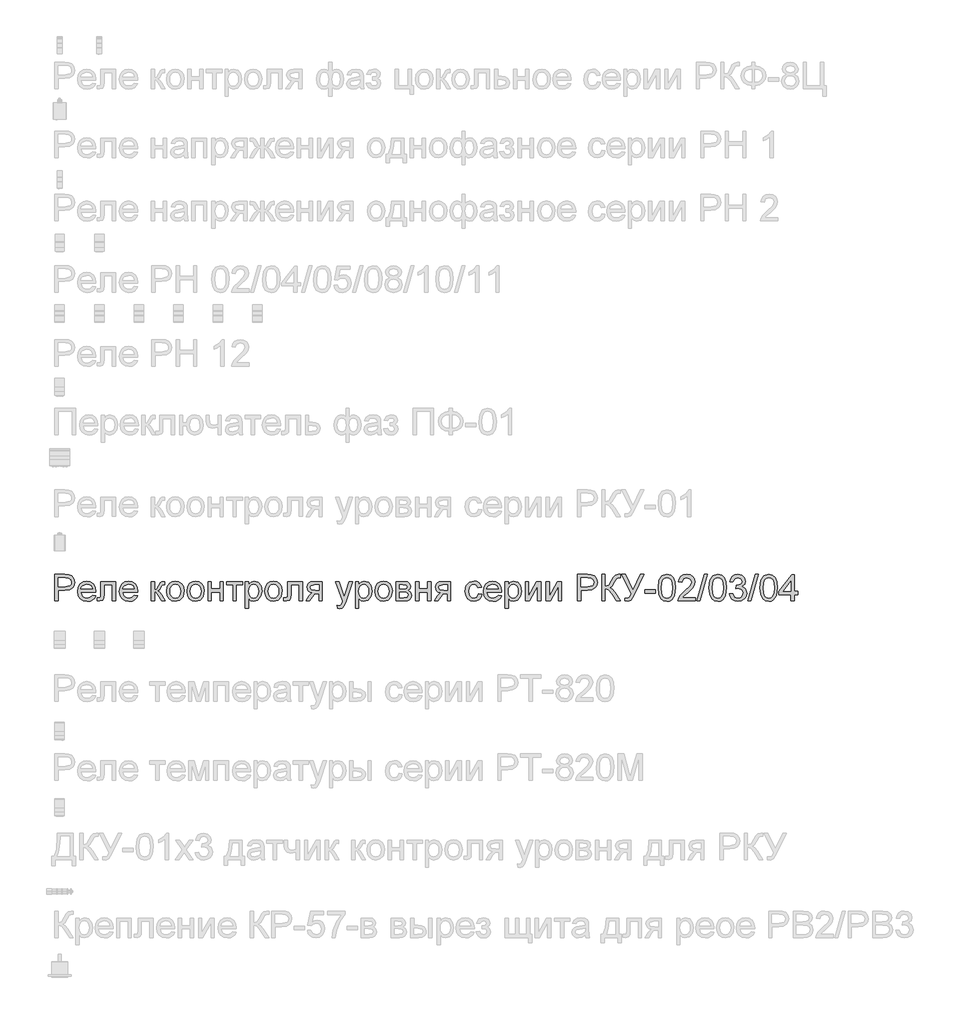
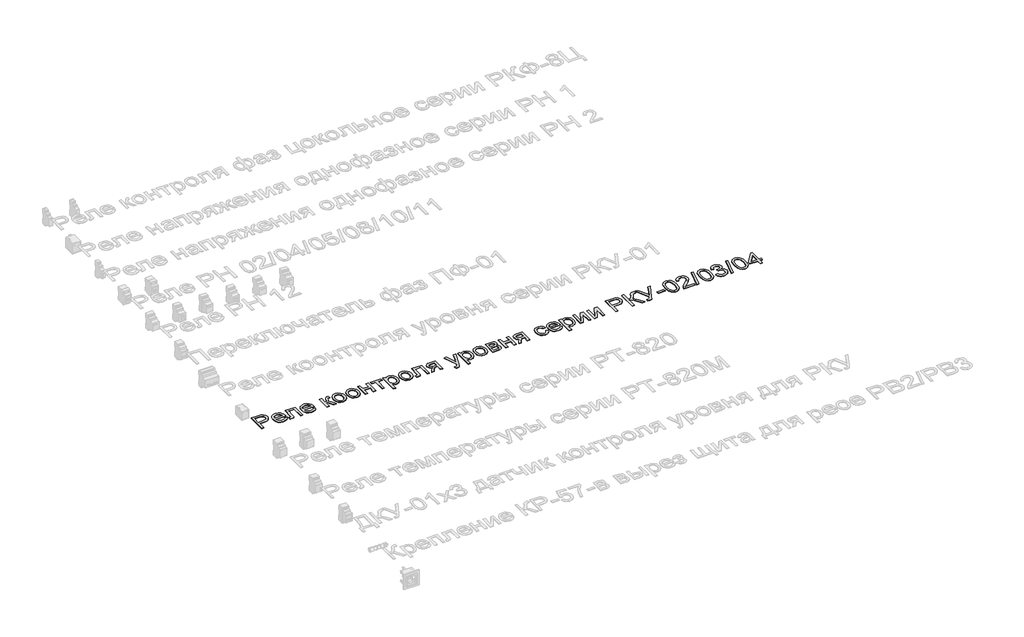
# One storey, part 5 of 34: 1 proxy.
"""IFC4 building model written with IfcOpenShell, lengths in millimetres."""

from ifc_helpers import new_model, si_unit, frame, origin, place, context, project, spatial, polyline, outline, extrude, element, save

model = new_model("IFC4")

# Units and contexts
model_context = context("Model", 3, world=origin())
ifc_project = project(units=[si_unit("LENGTHUNIT", "METRE", prefix="MILLI")], contexts=[model_context])

# Site, building, storey
site = spatial("IfcSite", under=ifc_project)
building = spatial("IfcBuilding", under=site)
storey = spatial("IfcBuildingStorey", under=building, Name="Этаж 01", Elevation=0.0)

# Proxy
placement = place(None, origin())
element("IfcBuildingElementProxy", 1, Name="Надпись на модели 1", ObjectType="Надпись на модели 1", at=placement, inside=storey, context=model_context, shape_type="SweptSolid", body=[
    extrude(outline(polyline([(-19039.0125911, 8766.235284), (-19039.0125911, 8866.6915941), (-19001.7829332, 8866.6915941), (-18986.7733478, 8865.735101), (-18974.5719283, 8861.0384742), (-18966.6624654, 8851.3263895), (-18963.6703585, 8837.6289165), (-18965.6906438, 8825.7892476), (-18971.7514996, 8815.9238788), (-18983.0853308, 8809.2652147), (-19000.9245418, 8807.04566), (-19026.4555523, 8807.04566), (-19026.4555523, 8766.235284), (-19039.0125911, 8766.235284)]), holes=[polyline([(-19026.4555523, 8819.6026988), (-19000.1887779, 8819.6026988), (-18981.6965762, 8824.2134864), (-18977.594692, 8829.7623732), (-18976.2273972, 8837.1874581), (-18979.4524961, 8847.5862559), (-18987.9260447, 8853.2761641), (-19000.4830834, 8854.1345554), (-19026.4555523, 8854.1345554), (-19026.4555523, 8819.6026988)])]), frame((0.0, 0.0, 40.0), z_axis=(0.0, 0.0, 1.0), x_axis=(1.0, 0.0, 0.0)), (0.0, 0.0, 1.0), 2.0),
    extrude(outline(polyline([(-18896.3234279, 8788.2101018), (-18884.0116438, 8786.640472), (-18888.4476875, 8777.3637143), (-18895.5263502, 8770.4291387), (-18905.0882164, 8766.1065253), (-18916.9738705, 8764.6656541), (-18931.7075445, 8767.1519233), (-18943.0444413, 8774.6107308), (-18950.2733225, 8786.5576985), (-18952.6829495, 8802.5084487), (-18950.248797, 8818.9956935), (-18942.9463394, 8831.3258717), (-18931.7627268, 8839.0146054), (-18917.6851091, 8841.5775166), (-18904.0458841, 8839.0207367), (-18893.14738, 8831.3503971), (-18886.0012722, 8819.0447444), (-18883.6192363, 8802.5820251), (-18883.6928127, 8799.1975108), (-18940.1259108, 8799.1975108), (-18937.9523413, 8789.7981258), (-18932.9031609, 8782.8880756), (-18925.6160317, 8778.6390386), (-18916.7286159, 8777.2226929), (-18904.4168318, 8779.8469178), (-18896.3234279, 8788.2101018)]), holes=[polyline([(-18940.1259108, 8811.7545495), (-18896.1762751, 8811.7545495), (-18901.2039957, 8823.1343659), (-18908.5248474, 8827.5489499), (-18917.73416, 8829.0204778), (-18933.1974665, 8824.323851), (-18938.0627059, 8818.8332123), (-18940.1259108, 8811.7545495)])]), frame((0.0, 0.0, 40.0), z_axis=(0.0, 0.0, 1.0), x_axis=(1.0, 0.0, 0.0)), (0.0, 0.0, 1.0), 2.0),
    extrude(outline(polyline([(-18864.7836782, 8840.0078868), (-18808.2770037, 8840.0078868), (-18808.2770037, 8766.3088604), (-18820.8340425, 8766.3088604), (-18820.8340425, 8827.450848), (-18852.2266394, 8827.450848), (-18852.2266394, 8792.2568038), (-18853.072768, 8776.0209451), (-18857.7203439, 8769.1660772), (-18868.7077528, 8766.235284), (-18878.9103468, 8766.8729461), (-18878.9103468, 8778.7923228), (-18873.294015, 8778.7923228), (-18867.6163695, 8779.564875), (-18865.3477639, 8782.0174216), (-18864.7836782, 8792.9680423), (-18864.7836782, 8840.0078868)])), frame((0.0, 0.0, 40.0), z_axis=(0.0, 0.0, 1.0), x_axis=(1.0, 0.0, 0.0)), (0.0, 0.0, 1.0), 2.0),
    extrude(outline(polyline([(-18737.7908134, 8788.2101018), (-18725.4790293, 8786.640472), (-18729.915073, 8777.3637143), (-18736.9937358, 8770.4291387), (-18746.555602, 8766.1065253), (-18758.4412561, 8764.6656541), (-18773.17493, 8767.1519233), (-18784.5118268, 8774.6107308), (-18791.740708, 8786.5576985), (-18794.1503351, 8802.5084487), (-18791.7161826, 8818.9956935), (-18784.4137249, 8831.3258717), (-18773.2301123, 8839.0146054), (-18759.1524946, 8841.5775166), (-18745.5132696, 8839.0207367), (-18734.6147655, 8831.3503971), (-18727.4686578, 8819.0447444), (-18725.0866219, 8802.5820251), (-18725.1601983, 8799.1975108), (-18781.5932963, 8799.1975108), (-18779.4197269, 8789.7981258), (-18774.3705465, 8782.8880756), (-18767.0834173, 8778.6390386), (-18758.1960014, 8777.2226929), (-18745.8842173, 8779.8469178), (-18737.7908134, 8788.2101018)]), holes=[polyline([(-18781.5932963, 8811.7545495), (-18737.6436606, 8811.7545495), (-18742.6713812, 8823.1343659), (-18749.9922329, 8827.5489499), (-18759.2015455, 8829.0204778), (-18774.6648521, 8824.323851), (-18779.5300915, 8818.8332123), (-18781.5932963, 8811.7545495)])]), frame((0.0, 0.0, 40.0), z_axis=(0.0, 0.0, 1.0), x_axis=(1.0, 0.0, 0.0)), (0.0, 0.0, 1.0), 2.0),
    extrude(outline(polyline([(-18673.2888369, 8840.0078868), (-18660.7317982, 8840.0078868), (-18660.7317982, 8808.6152898), (-18652.3195632, 8810.8716327), (-18645.4279072, 8824.0172827), (-18639.7012108, 8835.3603109), (-18634.6489647, 8839.0513936), (-18625.4641776, 8840.0078868), (-18623.0606819, 8840.0078868), (-18623.0606819, 8827.3772716), (-18626.4451962, 8827.450848), (-18632.5765628, 8826.1264728), (-18636.8930449, 8817.8613906), (-18641.9575537, 8808.9218582), (-18649.0576762, 8804.5440624), (-18641.1359506, 8799.6573633), (-18633.3613777, 8789.3627988), (-18619.9214222, 8766.235284), (-18634.1952436, 8766.235284), (-18647.365419, 8788.8722894), (-18653.9872949, 8798.449484), (-18660.7317982, 8800.7671406), (-18660.7317982, 8766.235284), (-18673.2888369, 8766.235284), (-18673.2888369, 8840.0078868)])), frame((0.0, 0.0, 40.0), z_axis=(0.0, 0.0, 1.0), x_axis=(1.0, 0.0, 0.0)), (0.0, 0.0, 1.0), 2.0),
    extrude(outline(polyline([(-18615.2125326, 8803.1215854), (-18612.4963372, 8820.9086798), (-18604.347751, 8833.4105363), (-18594.2800471, 8839.5357715), (-18582.2257804, 8841.5775166), (-18569.0341452, 8839.0912475), (-18558.4973917, 8831.63244), (-18551.5904073, 8819.7897054), (-18549.2880791, 8804.151655), (-18553.3593065, 8781.8089551), (-18565.2173695, 8769.1660772), (-18582.2257804, 8764.6656541), (-18595.5768311, 8767.1427262), (-18606.1013219, 8774.5739426), (-18612.9347299, 8786.6649975), (-18615.2125326, 8803.1215854)]), holes=[polyline([(-18602.6554939, 8803.1461108), (-18601.20236, 8791.7816229), (-18596.8429583, 8783.6851533), (-18590.2823961, 8778.838308), (-18582.2257804, 8777.2226929), (-18574.2059529, 8778.8475051), (-18567.6576534, 8783.7219415), (-18563.2982517, 8791.92571), (-18561.8451179, 8803.5385183), (-18563.3074488, 8814.5719125), (-18567.6944416, 8822.5580175), (-18574.2519382, 8827.4048627), (-18582.2257804, 8829.0204778), (-18590.2823961, 8827.4109941), (-18596.8429583, 8822.5825429), (-18601.20236, 8814.5044674), (-18602.6554939, 8803.1461108)])]), frame((0.0, 0.0, 40.0), z_axis=(0.0, 0.0, 1.0), x_axis=(1.0, 0.0, 0.0)), (0.0, 0.0, 1.0), 2.0),
    extrude(outline(polyline([(-18538.3006702, 8803.1215854), (-18535.5844748, 8820.9086798), (-18527.4358886, 8833.4105363), (-18517.3681846, 8839.5357715), (-18505.3139179, 8841.5775166), (-18492.1222827, 8839.0912475), (-18481.5855293, 8831.63244), (-18474.6785448, 8819.7897054), (-18472.3762166, 8804.151655), (-18476.4474441, 8781.8089551), (-18488.305507, 8769.1660772), (-18505.3139179, 8764.6656541), (-18518.6649687, 8767.1427262), (-18529.1894594, 8774.5739426), (-18536.0228675, 8786.6649975), (-18538.3006702, 8803.1215854)]), holes=[polyline([(-18525.7436314, 8803.1461108), (-18524.2904975, 8791.7816229), (-18519.9310959, 8783.6851533), (-18513.3705336, 8778.838308), (-18505.3139179, 8777.2226929), (-18497.2940904, 8778.8475051), (-18490.7457909, 8783.7219415), (-18486.3863893, 8791.92571), (-18484.9332554, 8803.5385183), (-18486.3955863, 8814.5719125), (-18490.7825791, 8822.5580175), (-18497.3400757, 8827.4048627), (-18505.3139179, 8829.0204778), (-18513.3705336, 8827.4109941), (-18519.9310959, 8822.5825429), (-18524.2904975, 8814.5044674), (-18525.7436314, 8803.1461108)])]), frame((0.0, 0.0, 40.0), z_axis=(0.0, 0.0, 1.0), x_axis=(1.0, 0.0, 0.0)), (0.0, 0.0, 1.0), 2.0),
    extrude(outline(polyline([(-18458.249548, 8840.0078868), (-18445.6925093, 8840.0078868), (-18445.6925093, 8811.7545495), (-18412.7302825, 8811.7545495), (-18412.7302825, 8840.0078868), (-18400.1732437, 8840.0078868), (-18400.1732437, 8766.235284), (-18412.7302825, 8766.235284), (-18412.7302825, 8799.1975108), (-18445.6925093, 8799.1975108), (-18445.6925093, 8766.235284), (-18458.249548, 8766.235284), (-18458.249548, 8840.0078868)])), frame((0.0, 0.0, 40.0), z_axis=(0.0, 0.0, 1.0), x_axis=(1.0, 0.0, 0.0)), (0.0, 0.0, 1.0), 2.0),
    extrude(outline(polyline([(-18387.616205, 8840.0078868), (-18327.9702708, 8840.0078868), (-18327.9702708, 8827.450848), (-18351.5147185, 8827.450848), (-18351.5147185, 8766.235284), (-18364.0717573, 8766.235284), (-18364.0717573, 8827.450848), (-18387.616205, 8827.450848), (-18387.616205, 8840.0078868)])), frame((0.0, 0.0, 40.0), z_axis=(0.0, 0.0, 1.0), x_axis=(1.0, 0.0, 0.0)), (0.0, 0.0, 1.0), 2.0),
    extrude(outline(polyline([(-18316.9828619, 8737.9819468), (-18316.9828619, 8840.0078868), (-18304.4258231, 8840.0078868), (-18304.4258231, 8827.6961027), (-18295.743808, 8838.1071631), (-18284.0206351, 8841.5775166), (-18268.1036075, 8836.7214743), (-18257.7048097, 8823.036264), (-18254.197668, 8803.6856711), (-18258.1585308, 8783.3417968), (-18269.6609746, 8769.4849083), (-18285.541214, 8764.6656541), (-18296.4673093, 8767.890753), (-18304.4258231, 8776.0454705), (-18304.4258231, 8737.9819468), (-18316.9828619, 8737.9819468)]), holes=[polyline([(-18304.4258231, 8802.5329742), (-18303.0677254, 8791.2757851), (-18298.9934323, 8783.4031104), (-18292.9816274, 8778.7677973), (-18285.8109942, 8777.2226929), (-18278.523865, 8778.8229796), (-18272.3587759, 8783.6238396), (-18268.1557241, 8791.7846886), (-18266.7547068, 8803.4649419), (-18268.1220016, 8814.6608173), (-18272.2238858, 8822.6438566), (-18278.2264937, 8827.4263225), (-18285.2959594, 8829.0204778), (-18292.3930162, 8827.325155), (-18298.6255503, 8822.2391864), (-18302.9757549, 8813.9219876), (-18304.4258231, 8802.5329742)])]), frame((0.0, 0.0, 40.0), z_axis=(0.0, 0.0, 1.0), x_axis=(1.0, 0.0, 0.0)), (0.0, 0.0, 1.0), 2.0),
    extrude(outline(polyline([(-18243.2102591, 8803.1215854), (-18240.4940637, 8820.9086798), (-18232.3454775, 8833.4105363), (-18222.2777736, 8839.5357715), (-18210.2235069, 8841.5775166), (-18197.0318717, 8839.0912475), (-18186.4951182, 8831.63244), (-18179.5881337, 8819.7897054), (-18177.2858056, 8804.151655), (-18181.357033, 8781.8089551), (-18193.215096, 8769.1660772), (-18210.2235069, 8764.6656541), (-18223.5745576, 8767.1427262), (-18234.0990484, 8774.5739426), (-18240.9324564, 8786.6649975), (-18243.2102591, 8803.1215854)]), holes=[polyline([(-18230.6532203, 8803.1461108), (-18229.2000865, 8791.7816229), (-18224.8406848, 8783.6851533), (-18218.2801226, 8778.838308), (-18210.2235069, 8777.2226929), (-18202.2036794, 8778.8475051), (-18195.6553799, 8783.7219415), (-18191.2959782, 8791.92571), (-18189.8428443, 8803.5385183), (-18191.3051753, 8814.5719125), (-18195.6921681, 8822.5580175), (-18202.2496646, 8827.4048627), (-18210.2235069, 8829.0204778), (-18218.2801226, 8827.4109941), (-18224.8406848, 8822.5825429), (-18229.2000865, 8814.5044674), (-18230.6532203, 8803.1461108)])]), frame((0.0, 0.0, 40.0), z_axis=(0.0, 0.0, 1.0), x_axis=(1.0, 0.0, 0.0)), (0.0, 0.0, 1.0), 2.0),
    extrude(outline(polyline([(-18156.8806176, 8840.0078868), (-18100.3739431, 8840.0078868), (-18100.3739431, 8766.3088604), (-18112.9309819, 8766.3088604), (-18112.9309819, 8827.450848), (-18144.3235788, 8827.450848), (-18144.3235788, 8792.2568038), (-18145.1697074, 8776.0209451), (-18149.8172833, 8769.1660772), (-18160.8046922, 8766.235284), (-18171.0072862, 8766.8729461), (-18171.0072862, 8778.7923228), (-18165.3909544, 8778.7923228), (-18159.7133089, 8779.564875), (-18157.4447033, 8782.0174216), (-18156.8806176, 8792.9680423), (-18156.8806176, 8840.0078868)])), frame((0.0, 0.0, 40.0), z_axis=(0.0, 0.0, 1.0), x_axis=(1.0, 0.0, 0.0)), (0.0, 0.0, 1.0), 2.0),
    extrude(outline(polyline([(-18025.0317105, 8840.0078868), (-18025.0317105, 8766.235284), (-18037.5887493, 8766.235284), (-18037.5887493, 8794.4886212), (-18044.4313544, 8794.4886212), (-18053.7510316, 8792.8944659), (-18062.5066231, 8782.1768371), (-18072.5130133, 8766.235284), (-18087.0320894, 8766.235284), (-18074.4259997, 8786.3952173), (-18063.7328964, 8796.843066), (-18072.3168096, 8799.4734223), (-18078.3500743, 8804.470486), (-18083.1080148, 8818.6952565), (-18081.4832027, 8827.2914325), (-18076.6087662, 8834.0972494), (-18068.6563838, 8838.5302274), (-18057.7977335, 8840.0078868), (-18025.0317105, 8840.0078868)]), holes=[polyline([(-18037.5887493, 8827.450848), (-18054.1434391, 8827.450848), (-18067.5466064, 8824.5445802), (-18070.550976, 8817.7387633), (-18066.1241294, 8809.6330967), (-18050.4400936, 8807.04566), (-18037.5887493, 8807.04566), (-18037.5887493, 8827.450848)])]), frame((0.0, 0.0, 40.0), z_axis=(0.0, 0.0, 1.0), x_axis=(1.0, 0.0, 0.0)), (0.0, 0.0, 1.0), 2.0),
    extrude(outline(polyline([(-17966.9554062, 8737.9819468), (-17968.525036, 8750.0730017), (-17962.1484148, 8748.9693557), (-17956.1887265, 8750.3550445), (-17952.534432, 8754.2178055), (-17949.1008667, 8763.4639063), (-17948.119848, 8766.5050641), (-17974.8035554, 8840.0078868), (-17961.5598036, 8840.0078868), (-17947.4086095, 8799.050358), (-17942.4789908, 8782.6673464), (-17937.5493721, 8797.1373716), (-17923.0057705, 8840.0078868), (-17909.8601205, 8840.0078868), (-17935.5382838, 8764.4694504), (-17942.2092107, 8748.0864389), (-17949.4932742, 8739.2327455), (-17959.2789352, 8736.4123169), (-17966.9554062, 8737.9819468)])), frame((0.0, 0.0, 40.0), z_axis=(0.0, 0.0, 1.0), x_axis=(1.0, 0.0, 0.0)), (0.0, 0.0, 1.0), 2.0),
    extrude(outline(polyline([(-17899.4613228, 8737.9819468), (-17899.4613228, 8840.0078868), (-17886.904284, 8840.0078868), (-17886.904284, 8827.6961027), (-17878.222269, 8838.1071631), (-17866.499096, 8841.5775166), (-17850.5820684, 8836.7214743), (-17840.1832707, 8823.036264), (-17836.676129, 8803.6856711), (-17840.6369918, 8783.3417968), (-17852.1394355, 8769.4849083), (-17868.019675, 8764.6656541), (-17878.9457702, 8767.890753), (-17886.904284, 8776.0454705), (-17886.904284, 8737.9819468), (-17899.4613228, 8737.9819468)]), holes=[polyline([(-17886.904284, 8802.5329742), (-17885.5461864, 8791.2757851), (-17881.4718933, 8783.4031104), (-17875.4600883, 8778.7677973), (-17868.2894551, 8777.2226929), (-17861.0023259, 8778.8229796), (-17854.8372368, 8783.6238396), (-17850.634185, 8791.7846886), (-17849.2331677, 8803.4649419), (-17850.6004625, 8814.6608173), (-17854.7023467, 8822.6438566), (-17860.7049546, 8827.4263225), (-17867.7744203, 8829.0204778), (-17874.8714771, 8827.325155), (-17881.1040113, 8822.2391864), (-17885.4542159, 8813.9219876), (-17886.904284, 8802.5329742)])]), frame((0.0, 0.0, 40.0), z_axis=(0.0, 0.0, 1.0), x_axis=(1.0, 0.0, 0.0)), (0.0, 0.0, 1.0), 2.0),
    extrude(outline(polyline([(-17825.6887201, 8803.1215854), (-17822.9725247, 8820.9086798), (-17814.8239385, 8833.4105363), (-17804.7562345, 8839.5357715), (-17792.7019678, 8841.5775166), (-17779.5103326, 8839.0912475), (-17768.9735791, 8831.63244), (-17762.0665947, 8819.7897054), (-17759.7642665, 8804.151655), (-17763.8354939, 8781.8089551), (-17775.6935569, 8769.1660772), (-17792.7019678, 8764.6656541), (-17806.0530186, 8767.1427262), (-17816.5775093, 8774.5739426), (-17823.4109174, 8786.6649975), (-17825.6887201, 8803.1215854)]), holes=[polyline([(-17813.1316813, 8803.1461108), (-17811.6785474, 8791.7816229), (-17807.3191458, 8783.6851533), (-17800.7585835, 8778.838308), (-17792.7019678, 8777.2226929), (-17784.6821403, 8778.8475051), (-17778.1338408, 8783.7219415), (-17773.7744392, 8791.92571), (-17772.3213053, 8803.5385183), (-17773.7836362, 8814.5719125), (-17778.170629, 8822.5580175), (-17784.7281256, 8827.4048627), (-17792.7019678, 8829.0204778), (-17800.7585835, 8827.4109941), (-17807.3191458, 8822.5825429), (-17811.6785474, 8814.5044674), (-17813.1316813, 8803.1461108)])]), frame((0.0, 0.0, 40.0), z_axis=(0.0, 0.0, 1.0), x_axis=(1.0, 0.0, 0.0)), (0.0, 0.0, 1.0), 2.0),
    extrude(outline(polyline([(-17745.6375979, 8840.0078868), (-17717.9728719, 8840.0078868), (-17702.8038709, 8838.3278923), (-17694.2690086, 8832.1720003), (-17690.7005533, 8821.4421087), (-17692.8587943, 8812.7233055), (-17699.3580429, 8806.5060997), (-17690.9212825, 8799.7002828), (-17687.5612936, 8787.8667453), (-17689.6888778, 8778.2956821), (-17694.7472552, 8771.5573102), (-17702.75482, 8767.5657905), (-17713.7299662, 8766.235284), (-17745.6375979, 8766.235284), (-17745.6375979, 8840.0078868)]), holes=[polyline([(-17733.0805591, 8811.7545495), (-17720.6706732, 8811.7545495), (-17710.431291, 8812.3922117), (-17705.4526213, 8814.9428602), (-17703.2575921, 8819.5536478), (-17707.1080903, 8825.7095399), (-17720.2782657, 8827.450848), (-17733.0805591, 8827.450848), (-17733.0805591, 8811.7545495)]), polyline([(-17733.0805591, 8778.7923228), (-17717.6785663, 8778.7923228), (-17704.0178815, 8781.0609284), (-17700.1183324, 8788.8968149), (-17702.2643107, 8794.9423424), (-17707.856117, 8798.4617468), (-17718.9048396, 8799.1975108), (-17733.0805591, 8799.1975108), (-17733.0805591, 8778.7923228)])]), frame((0.0, 0.0, 40.0), z_axis=(0.0, 0.0, 1.0), x_axis=(1.0, 0.0, 0.0)), (0.0, 0.0, 1.0), 2.0),
    extrude(outline(polyline([(-17671.8649951, 8840.0078868), (-17659.3079564, 8840.0078868), (-17659.3079564, 8811.7545495), (-17626.3457296, 8811.7545495), (-17626.3457296, 8840.0078868), (-17613.7886908, 8840.0078868), (-17613.7886908, 8766.235284), (-17626.3457296, 8766.235284), (-17626.3457296, 8799.1975108), (-17659.3079564, 8799.1975108), (-17659.3079564, 8766.235284), (-17671.8649951, 8766.235284), (-17671.8649951, 8840.0078868)])), frame((0.0, 0.0, 40.0), z_axis=(0.0, 0.0, 1.0), x_axis=(1.0, 0.0, 0.0)), (0.0, 0.0, 1.0), 2.0),
    extrude(outline(polyline([(-17538.4464582, 8840.0078868), (-17538.4464582, 8766.235284), (-17551.003497, 8766.235284), (-17551.003497, 8794.4886212), (-17557.8461021, 8794.4886212), (-17567.1657793, 8792.8944659), (-17575.9213708, 8782.1768371), (-17585.9277611, 8766.235284), (-17600.4468371, 8766.235284), (-17587.8407474, 8786.3952173), (-17577.1476441, 8796.843066), (-17585.7315573, 8799.4734223), (-17591.7648221, 8804.470486), (-17596.5227625, 8818.6952565), (-17594.8979504, 8827.2914325), (-17590.0235139, 8834.0972494), (-17582.0711315, 8838.5302274), (-17571.2124813, 8840.0078868), (-17538.4464582, 8840.0078868)]), holes=[polyline([(-17551.003497, 8827.450848), (-17567.5581868, 8827.450848), (-17580.9613541, 8824.5445802), (-17583.9657238, 8817.7387633), (-17579.5388771, 8809.6330967), (-17563.8548414, 8807.04566), (-17551.003497, 8807.04566), (-17551.003497, 8827.450848)])]), frame((0.0, 0.0, 40.0), z_axis=(0.0, 0.0, 1.0), x_axis=(1.0, 0.0, 0.0)), (0.0, 0.0, 1.0), 2.0),
    extrude(outline(polyline([(-17433.2812585, 8792.9189914), (-17420.7242198, 8791.3493615), (-17424.2252301, 8780.1810773), (-17430.8041864, 8771.7412512), (-17439.8418208, 8766.4345534), (-17450.7188651, 8764.6656541), (-17464.0760472, 8767.1335292), (-17474.5208302, 8774.5371544), (-17481.2622678, 8786.5515672), (-17483.5094136, 8802.8518052), (-17479.6711781, 8823.7107144), (-17467.9725307, 8837.1138817), (-17450.8905434, 8841.5775166), (-17440.2802135, 8840.044675), (-17431.7974678, 8835.44615), (-17425.7120865, 8828.0271964), (-17422.2938496, 8818.0330689), (-17434.8508884, 8816.4634391), (-17440.6756866, 8825.8689554), (-17450.7924415, 8829.0204778), (-17458.9073052, 8827.4692421), (-17465.3483058, 8822.8155349), (-17469.5513576, 8814.8079701), (-17470.9523748, 8803.1951618), (-17469.5820144, 8791.4260036), (-17465.4709331, 8783.3908477), (-17459.1464285, 8778.7647316), (-17451.135798, 8777.2226929), (-17439.3022605, 8781.0731911), (-17433.2812585, 8792.9189914)])), frame((0.0, 0.0, 40.0), z_axis=(0.0, 0.0, 1.0), x_axis=(1.0, 0.0, 0.0)), (0.0, 0.0, 1.0), 2.0),
    extrude(outline(polyline([(-17358.0861787, 8788.2101018), (-17345.7743946, 8786.640472), (-17350.2104383, 8777.3637143), (-17357.2891011, 8770.4291387), (-17366.8509673, 8766.1065253), (-17378.7366214, 8764.6656541), (-17393.4702953, 8767.1519233), (-17404.8071921, 8774.6107308), (-17412.0360733, 8786.5576985), (-17414.4457004, 8802.5084487), (-17412.0115478, 8818.9956935), (-17404.7090902, 8831.3258717), (-17393.5254776, 8839.0146054), (-17379.4478599, 8841.5775166), (-17365.8086349, 8839.0207367), (-17354.9101308, 8831.3503971), (-17347.7640231, 8819.0447444), (-17345.3819871, 8802.5820251), (-17345.4555635, 8799.1975108), (-17401.8886616, 8799.1975108), (-17399.7150922, 8789.7981258), (-17394.6659118, 8782.8880756), (-17387.3787826, 8778.6390386), (-17378.4913667, 8777.2226929), (-17366.1795826, 8779.8469178), (-17358.0861787, 8788.2101018)]), holes=[polyline([(-17401.8886616, 8811.7545495), (-17357.9390259, 8811.7545495), (-17362.9667465, 8823.1343659), (-17370.2875982, 8827.5489499), (-17379.4969108, 8829.0204778), (-17394.9602174, 8824.323851), (-17399.8254568, 8818.8332123), (-17401.8886616, 8811.7545495)])]), frame((0.0, 0.0, 40.0), z_axis=(0.0, 0.0, 1.0), x_axis=(1.0, 0.0, 0.0)), (0.0, 0.0, 1.0), 2.0),
    extrude(outline(polyline([(-17332.8249484, 8737.9819468), (-17332.8249484, 8840.0078868), (-17320.2679096, 8840.0078868), (-17320.2679096, 8827.6961027), (-17311.5858945, 8838.1071631), (-17299.8627216, 8841.5775166), (-17283.945694, 8836.7214743), (-17273.5468962, 8823.036264), (-17270.0397545, 8803.6856711), (-17274.0006174, 8783.3417968), (-17285.5030611, 8769.4849083), (-17301.3833005, 8764.6656541), (-17312.3093958, 8767.890753), (-17320.2679096, 8776.0454705), (-17320.2679096, 8737.9819468), (-17332.8249484, 8737.9819468)]), holes=[polyline([(-17320.2679096, 8802.5329742), (-17318.9098119, 8791.2757851), (-17314.8355188, 8783.4031104), (-17308.8237139, 8778.7677973), (-17301.6530807, 8777.2226929), (-17294.3659515, 8778.8229796), (-17288.2008624, 8783.6238396), (-17283.9978106, 8791.7846886), (-17282.5967933, 8803.4649419), (-17283.9640881, 8814.6608173), (-17288.0659723, 8822.6438566), (-17294.0685802, 8827.4263225), (-17301.1380459, 8829.0204778), (-17308.2351027, 8827.325155), (-17314.4676368, 8822.2391864), (-17318.8178414, 8813.9219876), (-17320.2679096, 8802.5329742)])]), frame((0.0, 0.0, 40.0), z_axis=(0.0, 0.0, 1.0), x_axis=(1.0, 0.0, 0.0)), (0.0, 0.0, 1.0), 2.0),
    extrude(outline(polyline([(-17255.9130859, 8840.0078868), (-17243.3560472, 8840.0078868), (-17243.3560472, 8783.746467), (-17212.5030105, 8840.0078868), (-17196.2671518, 8840.0078868), (-17196.2671518, 8766.235284), (-17208.8241905, 8766.235284), (-17208.8241905, 8822.1533473), (-17239.4810235, 8766.235284), (-17255.9130859, 8766.235284), (-17255.9130859, 8840.0078868)])), frame((0.0, 0.0, 40.0), z_axis=(0.0, 0.0, 1.0), x_axis=(1.0, 0.0, 0.0)), (0.0, 0.0, 1.0), 2.0),
    extrude(outline(polyline([(-17177.4315936, 8840.0078868), (-17164.8745548, 8840.0078868), (-17164.8745548, 8783.746467), (-17134.0215182, 8840.0078868), (-17117.7856595, 8840.0078868), (-17117.7856595, 8766.235284), (-17130.3426982, 8766.235284), (-17130.3426982, 8822.1533473), (-17160.9995312, 8766.235284), (-17177.4315936, 8766.235284), (-17177.4315936, 8840.0078868)])), frame((0.0, 0.0, 40.0), z_axis=(0.0, 0.0, 1.0), x_axis=(1.0, 0.0, 0.0)), (0.0, 0.0, 1.0), 2.0),
    extrude(outline(polyline([(-17058.1397253, 8766.235284), (-17058.1397253, 8866.6915941), (-17020.9100674, 8866.6915941), (-17005.900482, 8865.735101), (-16993.6990625, 8861.0384742), (-16985.7895996, 8851.3263895), (-16982.7974927, 8837.6289165), (-16984.817778, 8825.7892476), (-16990.8786339, 8815.9238788), (-17002.212465, 8809.2652147), (-17020.0516761, 8807.04566), (-17045.5826865, 8807.04566), (-17045.5826865, 8766.235284), (-17058.1397253, 8766.235284)]), holes=[polyline([(-17045.5826865, 8819.6026988), (-17019.3159121, 8819.6026988), (-17000.8237105, 8824.2134864), (-16996.7218262, 8829.7623732), (-16995.3545315, 8837.1874581), (-16998.5796303, 8847.5862559), (-17007.0531789, 8853.2761641), (-17019.6102177, 8854.1345554), (-17045.5826865, 8854.1345554), (-17045.5826865, 8819.6026988)])]), frame((0.0, 0.0, 40.0), z_axis=(0.0, 0.0, 1.0), x_axis=(1.0, 0.0, 0.0)), (0.0, 0.0, 1.0), 2.0),
    extrude(outline(polyline([(-16965.5315644, 8866.6915941), (-16952.9745256, 8866.6915941), (-16952.9745256, 8822.7419585), (-16938.9336961, 8826.0651591), (-16929.1357723, 8842.8773663), (-16922.2073281, 8856.9181958), (-16914.3591789, 8863.8711655), (-16903.138778, 8866.6915941), (-16894.8982213, 8866.5444413), (-16894.8982213, 8853.9874026), (-16897.669599, 8854.060979), (-16900.4409767, 8854.1345554), (-16910.2511633, 8851.117923), (-16917.706905, 8838.1930022), (-16926.5973866, 8822.4476529), (-16935.2671389, 8817.248254), (-16925.5734484, 8811.5706085), (-16916.0146478, 8799.737071), (-16894.8982213, 8766.235284), (-16909.4663483, 8766.235284), (-16927.3208878, 8794.5376722), (-16939.8901893, 8809.3142656), (-16952.9745256, 8813.3241794), (-16952.9745256, 8766.235284), (-16965.5315644, 8766.235284), (-16965.5315644, 8866.6915941)])), frame((0.0, 0.0, 40.0), z_axis=(0.0, 0.0, 1.0), x_axis=(1.0, 0.0, 0.0)), (0.0, 0.0, 1.0), 2.0),
    extrude(outline(polyline([(-16890.9741467, 8866.6915941), (-16877.0682073, 8866.6915941), (-16847.024511, 8807.1928128), (-16819.9974471, 8866.6915941), (-16806.214135, 8866.6915941), (-16844.3512352, 8788.430831), (-16854.7255074, 8769.2028654), (-16866.326053, 8764.6656541), (-16877.632293, 8766.235284), (-16877.632293, 8777.2226929), (-16867.7485301, 8777.2226929), (-16860.4154156, 8780.0185961), (-16853.6218615, 8792.7473131), (-16890.9741467, 8866.6915941)])), frame((0.0, 0.0, 40.0), z_axis=(0.0, 0.0, 1.0), x_axis=(1.0, 0.0, 0.0)), (0.0, 0.0, 1.0), 2.0),
    extrude(outline(polyline([(-16802.2900604, 8796.0582511), (-16802.2900604, 8808.6152898), (-16763.0493143, 8808.6152898), (-16763.0493143, 8796.0582511), (-16802.2900604, 8796.0582511)])), frame((0.0, 0.0, 40.0), z_axis=(0.0, 0.0, 1.0), x_axis=(1.0, 0.0, 0.0)), (0.0, 0.0, 1.0), 2.0),
    extrude(outline(polyline([(-16752.0619053, 8815.6540987), (-16748.3708226, 8844.5573608), (-16737.4079392, 8861.2224151), (-16719.0996786, 8866.6915941), (-16704.4334497, 8863.4542326), (-16694.3044321, 8854.1222926), (-16688.4183202, 8839.25986), (-16686.1374518, 8815.6540987), (-16689.7917463, 8786.8734639), (-16700.7178415, 8770.1716213), (-16708.9492012, 8766.0421459), (-16719.0996786, 8764.6656541), (-16732.1472267, 8767.0568871), (-16742.0555151, 8774.230586), (-16749.5603078, 8791.2206028), (-16752.0619053, 8815.6540987)]), holes=[polyline([(-16739.5048666, 8815.6786241), (-16738.0333386, 8795.9264267), (-16733.6187546, 8784.4944937), (-16727.0459297, 8779.0406431), (-16719.0996786, 8777.2226929), (-16711.1534275, 8779.0467745), (-16704.5806025, 8784.5190192), (-16700.1660185, 8795.9570835), (-16698.6944906, 8815.6786241), (-16700.1169676, 8834.9862975), (-16704.3843988, 8846.5071353), (-16710.944961, 8852.2277004), (-16719.2468314, 8854.1345554), (-16727.1072433, 8852.4545609), (-16733.4225509, 8847.4145776), (-16737.9842876, 8835.1763699), (-16739.5048666, 8815.6786241)])]), frame((0.0, 0.0, 40.0), z_axis=(0.0, 0.0, 1.0), x_axis=(1.0, 0.0, 0.0)), (0.0, 0.0, 1.0), 2.0),
    extrude(outline(polyline([(-16610.7952192, 8778.7923228), (-16610.7952192, 8766.235284), (-16676.7196727, 8766.235284), (-16675.3707721, 8774.8927736), (-16667.743352, 8788.2223646), (-16652.0225281, 8802.7782288), (-16630.3420159, 8823.6984516), (-16624.9218878, 8837.9232221), (-16630.0354475, 8849.4379286), (-16643.389564, 8854.1345554), (-16657.3077661, 8849.5482932), (-16662.5930041, 8836.8686271), (-16675.1500429, 8838.4382569), (-16672.1058194, 8850.5844941), (-16665.5237973, 8859.4565816), (-16655.7473333, 8864.882841), (-16643.1197838, 8866.6915941), (-16630.4002638, 8864.6805059), (-16620.6421939, 8858.6472412), (-16614.4341852, 8849.6341323), (-16612.364849, 8838.6835116), (-16614.5966665, 8826.7763977), (-16622.01562, 8814.4646136), (-16640.0050496, 8797.2599989), (-16654.4505493, 8785.1812067), (-16660.115932, 8778.7923228), (-16610.7952192, 8778.7923228)])), frame((0.0, 0.0, 40.0), z_axis=(0.0, 0.0, 1.0), x_axis=(1.0, 0.0, 0.0)), (0.0, 0.0, 1.0), 2.0),
    extrude(outline(polyline([(-16604.5166998, 8766.235284), (-16576.2633626, 8866.6915941), (-16564.9325971, 8866.6915941), (-16593.1859343, 8766.235284), (-16604.5166998, 8766.235284)])), frame((0.0, 0.0, 40.0), z_axis=(0.0, 0.0, 1.0), x_axis=(1.0, 0.0, 0.0)), (0.0, 0.0, 1.0), 2.0),
    extrude(outline(polyline([(-16558.9974343, 8815.6540987), (-16555.3063516, 8844.5573608), (-16544.3434681, 8861.2224151), (-16526.0352075, 8866.6915941), (-16511.3689786, 8863.4542326), (-16501.239961, 8854.1222926), (-16495.3538491, 8839.25986), (-16493.0729807, 8815.6540987), (-16496.7272752, 8786.8734639), (-16507.6533705, 8770.1716213), (-16515.8847301, 8766.0421459), (-16526.0352075, 8764.6656541), (-16539.0827556, 8767.0568871), (-16548.991044, 8774.230586), (-16556.4958367, 8791.2206028), (-16558.9974343, 8815.6540987)]), holes=[polyline([(-16546.4403955, 8815.6786241), (-16544.9688675, 8795.9264267), (-16540.5542836, 8784.4944937), (-16533.9814586, 8779.0406431), (-16526.0352075, 8777.2226929), (-16518.0889564, 8779.0467745), (-16511.5161314, 8784.5190192), (-16507.1015475, 8795.9570835), (-16505.6300195, 8815.6786241), (-16507.0524965, 8834.9862975), (-16511.3199277, 8846.5071353), (-16517.8804899, 8852.2277004), (-16526.1823603, 8854.1345554), (-16534.0427723, 8852.4545609), (-16540.3580798, 8847.4145776), (-16544.9198166, 8835.1763699), (-16546.4403955, 8815.6786241)])]), frame((0.0, 0.0, 40.0), z_axis=(0.0, 0.0, 1.0), x_axis=(1.0, 0.0, 0.0)), (0.0, 0.0, 1.0), 2.0),
    extrude(outline(polyline([(-16482.0855718, 8792.9189914), (-16469.528533, 8794.4886212), (-16462.6000888, 8781.2693949), (-16449.6383798, 8777.2226929), (-16441.0299411, 8778.6145131), (-16434.3835398, 8782.7899738), (-16428.718157, 8796.5732859), (-16434.3344888, 8809.5595203), (-16448.6083102, 8814.6976055), (-16457.4129527, 8813.3241794), (-16456.0150011, 8825.8812181), (-16454.0039128, 8825.7340653), (-16439.7546169, 8829.3393089), (-16435.0089392, 8833.9133084), (-16433.4270466, 8840.4248197), (-16438.0133088, 8850.247269), (-16449.8345836, 8854.1345554), (-16461.8030111, 8850.2104808), (-16467.9589032, 8838.4382569), (-16480.515942, 8840.0078868), (-16476.8187279, 8851.2834699), (-16470.2397716, 8859.7018362), (-16461.2389254, 8864.9441547), (-16450.276042, 8866.6915941), (-16435.1315665, 8863.2457661), (-16424.536565, 8853.827987), (-16420.8700078, 8841.1605837), (-16424.352624, 8829.5845636), (-16434.6533199, 8821.2704305), (-16420.9681097, 8812.6865173), (-16416.1611183, 8796.3525567), (-16418.564614, 8784.114349), (-16425.7751011, 8773.8872295), (-16436.6582768, 8766.971048), (-16450.0798382, 8764.6656541), (-16462.2199441, 8766.6338228), (-16472.103707, 8772.5383288), (-16478.9769689, 8781.5698318), (-16482.0855718, 8792.9189914)])), frame((0.0, 0.0, 40.0), z_axis=(0.0, 0.0, 1.0), x_axis=(1.0, 0.0, 0.0)), (0.0, 0.0, 1.0), 2.0),
    extrude(outline(polyline([(-16411.4522287, 8766.235284), (-16383.1988915, 8866.6915941), (-16371.868126, 8866.6915941), (-16400.1214633, 8766.235284), (-16411.4522287, 8766.235284)])), frame((0.0, 0.0, 40.0), z_axis=(0.0, 0.0, 1.0), x_axis=(1.0, 0.0, 0.0)), (0.0, 0.0, 1.0), 2.0),
    extrude(outline(polyline([(-16365.9329632, 8815.6540987), (-16362.2418805, 8844.5573608), (-16351.278997, 8861.2224151), (-16332.9707364, 8866.6915941), (-16318.3045075, 8863.4542326), (-16308.1754899, 8854.1222926), (-16302.289378, 8839.25986), (-16300.0085097, 8815.6540987), (-16303.6628041, 8786.8734639), (-16314.5888994, 8770.1716213), (-16322.820259, 8766.0421459), (-16332.9707364, 8764.6656541), (-16346.0182845, 8767.0568871), (-16355.9265729, 8774.230586), (-16363.4313656, 8791.2206028), (-16365.9329632, 8815.6540987)]), holes=[polyline([(-16353.3759244, 8815.6786241), (-16351.9043964, 8795.9264267), (-16347.4898125, 8784.4944937), (-16340.9169875, 8779.0406431), (-16332.9707364, 8777.2226929), (-16325.0244853, 8779.0467745), (-16318.4516603, 8784.5190192), (-16314.0370764, 8795.9570835), (-16312.5655484, 8815.6786241), (-16313.9880255, 8834.9862975), (-16318.2554566, 8846.5071353), (-16324.8160189, 8852.2277004), (-16333.1178892, 8854.1345554), (-16340.9783012, 8852.4545609), (-16347.2936088, 8847.4145776), (-16351.8553455, 8835.1763699), (-16353.3759244, 8815.6786241)])]), frame((0.0, 0.0, 40.0), z_axis=(0.0, 0.0, 1.0), x_axis=(1.0, 0.0, 0.0)), (0.0, 0.0, 1.0), 2.0),
    extrude(outline(polyline([(-16248.2107247, 8766.235284), (-16248.2107247, 8789.7797317), (-16293.7299903, 8789.7797317), (-16293.7299903, 8802.3367705), (-16245.071465, 8865.1219643), (-16235.653686, 8865.1219643), (-16235.653686, 8802.3367705), (-16223.0966472, 8802.3367705), (-16223.0966472, 8789.7797317), (-16235.653686, 8789.7797317), (-16235.653686, 8766.235284), (-16248.2107247, 8766.235284)]), holes=[polyline([(-16248.2107247, 8802.3367705), (-16248.2107247, 8841.1360582), (-16278.2789465, 8802.3367705), (-16248.2107247, 8802.3367705)])]), frame((0.0, 0.0, 40.0), z_axis=(0.0, 0.0, 1.0), x_axis=(1.0, 0.0, 0.0)), (0.0, 0.0, 1.0), 2.0),
])

save(model, "model.ifc")
